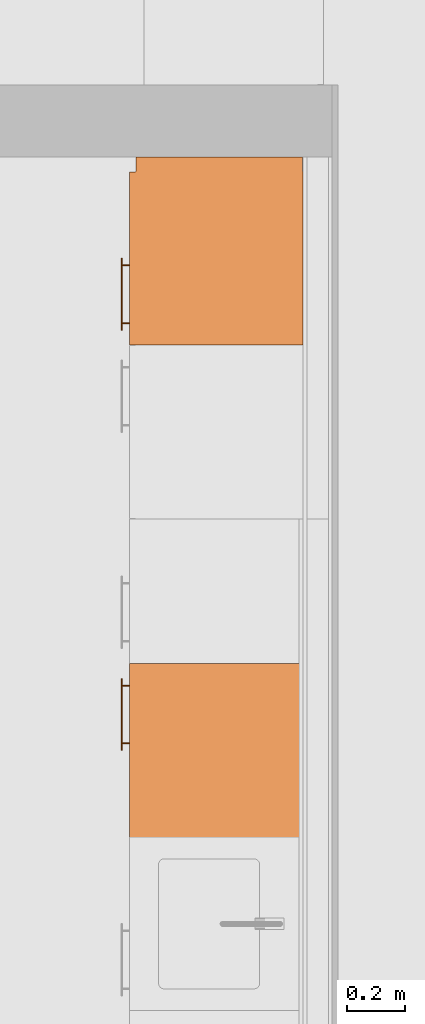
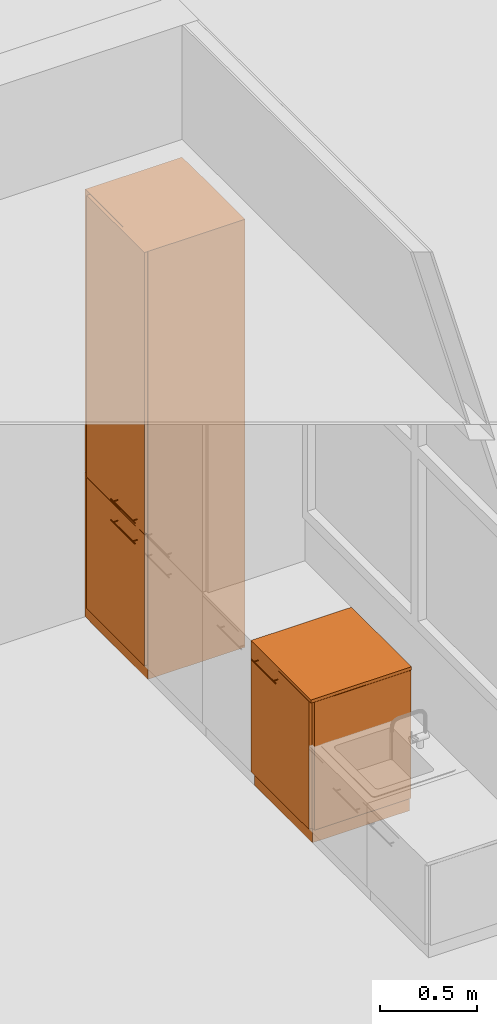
# One storey, part 127 of 167: 2 proxies.
"""IFC2X3 building model written with IfcOpenShell, lengths in millimetres."""

from ifc_helpers import new_model, entity, si_unit, converted_unit, derived_unit, money_unit, direction, frame, origin_with_axes, place, context, subcontext, project, spatial, open_shell, faceted_brep, surface_model, type_object, element, save


model = new_model("IFC2X3")

# Units and contexts
model_context = context("Model", 3, precision=0.01, world=origin_with_axes(), true_north=direction((0.0, 1.0)))
plan_context = context("Plan", 3, precision=0.01, world=origin_with_axes(), true_north=direction((0.0, 1.0)))
body_context = subcontext(model_context, "Body", "Model", "MODEL_VIEW")
ifc_project = project(units=[si_unit("LENGTHUNIT", "METRE", prefix="MILLI"), si_unit("AREAUNIT", "SQUARE_METRE"), si_unit("VOLUMEUNIT", "CUBIC_METRE"), converted_unit("PLANEANGLEUNIT", "DEGREE", entity("IfcPlaneAngleMeasure", 0.0174532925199), si_unit("PLANEANGLEUNIT", "RADIAN"), dimensions=[0, 0, 0, 0, 0, 0, 0]), si_unit("SOLIDANGLEUNIT", "STERADIAN"), money_unit("EUR"), converted_unit("TIMEUNIT", "Year", entity("IfcTimeMeasure", 31556926.0), si_unit("TIMEUNIT", "SECOND"), dimensions=[0, 0, 1, 0, 0, 0, 0]), si_unit("MASSUNIT", "GRAM", prefix="KILO"), si_unit("THERMODYNAMICTEMPERATUREUNIT", "DEGREE_CELSIUS"), si_unit("LUMINOUSINTENSITYUNIT", "LUMEN"), si_unit("ENERGYUNIT", "JOULE", prefix="MEGA"), derived_unit("THERMALCONDUCTANCEUNIT", [(si_unit("POWERUNIT", "WATT"), 1), (si_unit("LENGTHUNIT", "METRE"), -1), (si_unit("THERMODYNAMICTEMPERATUREUNIT", "KELVIN"), -1)]), derived_unit("SPECIFICHEATCAPACITYUNIT", [(si_unit("ENERGYUNIT", "JOULE"), 1), (si_unit("MASSUNIT", "GRAM", prefix="KILO"), -1), (si_unit("THERMODYNAMICTEMPERATUREUNIT", "KELVIN"), -1)]), derived_unit("MASSDENSITYUNIT", [(si_unit("MASSUNIT", "GRAM", prefix="KILO"), 1), (si_unit("VOLUMEUNIT", "CUBIC_METRE"), -1)])], contexts=[model_context, plan_context])

# Site, building, storey
site_placement = place(None, origin_with_axes())
site = spatial("IfcSite", under=ifc_project, at=site_placement, Name="Site", CompositionType="ELEMENT")
building_placement = place(site_placement, origin_with_axes())
building = spatial("IfcBuilding", under=site, at=building_placement, Name="Naam gebouw", CompositionType="ELEMENT")
storey_placement = place(building_placement, origin_with_axes())
storey = spatial("IfcBuildingStorey", under=building, at=storey_placement, Name="Begane grond", CompositionType="ELEMENT", Elevation=0.0)

# Proxies
building_element_proxy_type_1 = type_object("IfcBuildingElementProxyType", Name="Kast basis 1D 24", PredefinedType="NOTDEFINED")
proxy_1_placement = place(storey_placement, frame((7550.0, 33505.0, 0.0), z_axis=(0.0, 0.0, 1.0), x_axis=(0.0, -1.0, 0.0)))
element("IfcBuildingElementProxy", 1, at=proxy_1_placement, inside=storey, type_object=building_element_proxy_type_1, Name="__Object-x", context=body_context, shape_type="SurfaceModel", body=[
    faceted_brep([(-20.0, 20.0, 0.0), (-20.0, 20.0, 90.0), (-620.0, 20.0, 90.0), (-620.0, 20.0, 0.0), (-20.0, 600.0, 0.0), (-20.0, 600.0, 90.0), (-620.0, 600.0, 90.0), (-620.0, 600.0, 0.0)], [[[0, 1, 2, 3]], [[4, 5, 1, 0]], [[1, 5, 6, 2]], [[3, 2, 6, 7]], [[0, 3, 7, 4]], [[7, 6, 5, 4]]]),
    faceted_brep([(-20.0, 20.0, 880.0), (-20.0, 20.0, 900.0), (-40.0, 20.0, 900.0), (-40.0, 20.0, 880.0), (-20.0, 600.0, 880.0), (-20.0, 600.0, 900.0), (-40.0, 600.0, 900.0), (-600.0, 600.0, 900.0), (-620.0, 600.0, 900.0), (-620.0, 20.0, 900.0), (-600.0, 20.0, 900.0), (-600.0, 20.0, 880.0), (-620.0, 20.0, 880.0), (-620.0, 600.0, 880.0), (-600.0, 600.0, 880.0), (-40.0, 600.0, 880.0)], [[[0, 1, 2, 3]], [[4, 5, 1, 0]], [[1, 5, 6, 7, 8, 9, 10, 2]], [[3, 2, 10, 11]], [[0, 3, 11, 12, 13, 14, 15, 4]], [[15, 6, 5, 4]], [[14, 7, 6, 15]], [[13, 8, 7, 14]], [[12, 9, 8, 13]], [[11, 10, 9, 12]]]),
    faceted_brep([(-20.0, 20.0, 90.0), (-20.0, 20.0, 110.0), (-40.0, 20.0, 110.0), (-40.0, 20.0, 90.0), (-20.0, 600.0, 90.0), (-20.0, 600.0, 110.0), (-40.0, 600.0, 110.0), (-600.0, 600.0, 110.0), (-620.0, 600.0, 110.0), (-620.0, 20.0, 110.0), (-600.0, 20.0, 110.0), (-600.0, 20.0, 90.0), (-620.0, 20.0, 90.0), (-620.0, 600.0, 90.0), (-600.0, 600.0, 90.0), (-40.0, 600.0, 90.0)], [[[0, 1, 2, 3]], [[4, 5, 1, 0]], [[1, 5, 6, 7, 8, 9, 10, 2]], [[3, 2, 10, 11]], [[0, 3, 11, 12, 13, 14, 15, 4]], [[15, 6, 5, 4]], [[14, 7, 6, 15]], [[13, 8, 7, 14]], [[12, 9, 8, 13]], [[11, 10, 9, 12]]]),
    faceted_brep([(-20.0, 20.0, 110.0), (-20.0, 20.0, 880.0), (-40.0, 20.0, 880.0), (-40.0, 20.0, 110.0), (-20.0, 600.0, 110.0), (-20.0, 600.0, 880.0), (-620.0, 600.0, 880.0), (-620.0, 20.0, 880.0), (-600.0, 20.0, 880.0), (-600.0, 580.0, 880.0), (-40.0, 580.0, 880.0), (-40.0, 580.0, 110.0), (-600.0, 580.0, 110.0), (-600.0, 20.0, 110.0), (-620.0, 20.0, 110.0), (-620.0, 600.0, 110.0)], [[[0, 1, 2, 3]], [[4, 5, 1, 0]], [[1, 5, 6, 7, 8, 9, 10, 2]], [[3, 2, 10, 11]], [[0, 3, 11, 12, 13, 14, 15, 4]], [[15, 6, 5, 4]], [[14, 7, 6, 15]], [[13, 8, 7, 14]], [[12, 9, 8, 13]], [[11, 10, 9, 12]]]),
    faceted_brep([(-600.0, 20.0, 475.0), (-600.0, 20.0, 495.0), (-600.0, 580.0, 495.0), (-600.0, 580.0, 475.0), (-40.0, 20.0, 475.0), (-40.0, 20.0, 495.0), (-40.0, 580.0, 495.0), (-40.0, 580.0, 475.0)], [[[0, 1, 2, 3]], [[4, 5, 1, 0]], [[1, 5, 6, 2]], [[3, 2, 6, 7]], [[0, 3, 7, 4]], [[7, 6, 5, 4]]]),
    faceted_brep([(0.0, 0.0, 900.0), (0.0, 0.0, 920.0), (-620.0, 0.0, 920.0), (-620.0, 0.0, 900.0), (0.0, 600.0, 900.0), (0.0, 600.0, 920.0), (-620.0, 600.0, 920.0), (-620.0, 600.0, 900.0)], [[[0, 1, 2, 3]], [[4, 5, 1, 0]], [[1, 5, 6, 2]], [[3, 2, 6, 7]], [[0, 3, 7, 4]], [[7, 6, 5, 4]]]),
    faceted_brep([(-21.5, 20.0, 91.5), (-21.5, 0.0, 91.5), (-618.5, 0.0, 91.5), (-618.5, 20.0, 91.5), (-21.5, 20.0, 898.5), (-21.5, 0.0, 898.5), (-618.5, 0.0, 898.5), (-618.5, 20.0, 898.5)], [[[0, 1, 2, 3]], [[4, 5, 1, 0]], [[1, 5, 6, 2]], [[3, 2, 6, 7]], [[0, 3, 7, 4]], [[7, 6, 5, 4]]]),
    faceted_brep([(-318.5, -28.1480502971, 838.728361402), (-318.5, -27.0, 838.5), (-318.5, -25.8519497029, 838.728361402), (-318.5, -24.8786796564, 839.378679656), (-318.5, -24.2283614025, 840.351949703), (-318.5, -24.0, 841.5), (-318.5, -24.2283614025, 842.648050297), (-318.5, -24.8786796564, 843.621320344), (-318.5, -25.8519497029, 844.271638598), (-318.5, -27.0, 844.5), (-318.5, -28.1480502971, 844.271638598), (-318.5, -29.1213203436, 843.621320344), (-318.5, -29.7716385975, 842.648050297), (-318.5, -30.0, 841.5), (-318.5, -29.7716385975, 840.351949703), (-318.5, -29.1213203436, 839.378679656), (-568.5, -28.1480502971, 838.728361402), (-568.5, -27.0, 838.5), (-568.5, -25.8519497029, 838.728361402), (-568.5, -24.8786796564, 839.378679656), (-568.5, -24.2283614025, 840.351949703), (-568.5, -24.0, 841.5), (-568.5, -24.2283614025, 842.648050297), (-568.5, -24.8786796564, 843.621320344), (-568.5, -25.8519497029, 844.271638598), (-568.5, -27.0, 844.5), (-568.5, -28.1480502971, 844.271638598), (-568.5, -29.1213203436, 843.621320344), (-568.5, -29.7716385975, 842.648050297), (-568.5, -30.0, 841.5), (-568.5, -29.7716385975, 840.351949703), (-568.5, -29.1213203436, 839.378679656)], [[[0, 1, 2, 3, 4, 5, 6, 7, 8, 9, 10, 11, 12, 13, 14, 15]], [[0, 16, 17, 1]], [[1, 17, 18, 2]], [[2, 18, 19, 3]], [[3, 19, 20, 4]], [[4, 20, 21, 5]], [[5, 21, 22, 6]], [[6, 22, 23, 7]], [[7, 23, 24, 8]], [[8, 24, 25, 9]], [[9, 25, 26, 10]], [[10, 26, 27, 11]], [[11, 27, 28, 12]], [[12, 28, 29, 13]], [[13, 29, 30, 14]], [[14, 30, 31, 15]], [[15, 31, 16, 0]], [[16, 31, 30, 29, 28, 27, 26, 25, 24, 23, 22, 21, 20, 19, 18, 17]]]),
    surface_model("IfcShellBasedSurfaceModel", [(-341.190301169, -24.156637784, 840.543291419), (-341.190301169, 0.0, 840.543291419), (-341.0, 0.0, 841.5), (-341.0, -24.0, 841.5), (-341.732233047, -24.5761600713, 839.732233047), (-341.732233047, 0.0, 839.732233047), (-342.543291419, 0.0, 839.190301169), (-343.5, 0.0, 839.0), (-344.456708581, 0.0, 839.190301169), (-345.267766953, 0.0, 839.732233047), (-345.809698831, 0.0, 840.543291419), (-346.0, 0.0, 841.5), (-345.809698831, 0.0, 842.456708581), (-345.267766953, 0.0, 843.267766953), (-344.456708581, 0.0, 843.809698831), (-343.5, 0.0, 844.0), (-342.543291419, 0.0, 843.809698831), (-341.732233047, 0.0, 843.267766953), (-341.190301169, 0.0, 842.456708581), (-341.190301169, -24.156637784, 842.456708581), (-342.543291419, -25.0855049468, 839.190301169), (-343.5, -25.3416876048, 839.0), (-344.456708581, -25.0855049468, 839.190301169), (-345.267766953, -24.5761600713, 839.732233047), (-345.809698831, -24.156637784, 840.543291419), (-346.0, -24.0, 841.5), (-345.809698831, -24.156637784, 842.456708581), (-345.267766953, -24.5761600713, 843.267766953), (-344.456708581, -25.0855049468, 843.809698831), (-343.5, -25.3416876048, 844.0), (-342.543291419, -25.0855049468, 843.809698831), (-341.732233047, -24.5761600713, 843.267766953)], [open_shell([[[0, 1, 2, 3]], [[4, 5, 1, 0]], [[1, 5, 6, 7, 8, 9, 10, 11, 12, 13, 14, 15, 16, 17, 18, 2]], [[3, 2, 18, 19]], [[20, 6, 5, 4]], [[21, 7, 6, 20]], [[22, 8, 7, 21]], [[23, 9, 8, 22]], [[24, 10, 9, 23]], [[25, 11, 10, 24]], [[26, 12, 11, 25]], [[27, 13, 12, 26]], [[28, 14, 13, 27]], [[29, 15, 14, 28]], [[30, 16, 15, 29]], [[31, 17, 16, 30]], [[19, 18, 17, 31]]])]),
    surface_model("IfcShellBasedSurfaceModel", [(-541.190301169, -24.156637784, 840.543291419), (-541.190301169, 0.0, 840.543291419), (-541.0, 0.0, 841.5), (-541.0, -24.0, 841.5), (-541.732233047, -24.5761600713, 839.732233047), (-541.732233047, 0.0, 839.732233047), (-542.543291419, 0.0, 839.190301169), (-543.5, 0.0, 839.0), (-544.456708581, 0.0, 839.190301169), (-545.267766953, 0.0, 839.732233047), (-545.809698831, 0.0, 840.543291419), (-546.0, 0.0, 841.5), (-545.809698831, 0.0, 842.456708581), (-545.267766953, 0.0, 843.267766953), (-544.456708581, 0.0, 843.809698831), (-543.5, 0.0, 844.0), (-542.543291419, 0.0, 843.809698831), (-541.732233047, 0.0, 843.267766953), (-541.190301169, 0.0, 842.456708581), (-541.190301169, -24.156637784, 842.456708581), (-542.543291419, -25.0855049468, 839.190301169), (-543.5, -25.3416876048, 839.0), (-544.456708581, -25.0855049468, 839.190301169), (-545.267766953, -24.5761600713, 839.732233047), (-545.809698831, -24.156637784, 840.543291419), (-546.0, -24.0, 841.5), (-545.809698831, -24.156637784, 842.456708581), (-545.267766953, -24.5761600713, 843.267766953), (-544.456708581, -25.0855049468, 843.809698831), (-543.5, -25.3416876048, 844.0), (-542.543291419, -25.0855049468, 843.809698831), (-541.732233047, -24.5761600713, 843.267766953)], [open_shell([[[0, 1, 2, 3]], [[4, 5, 1, 0]], [[1, 5, 6, 7, 8, 9, 10, 11, 12, 13, 14, 15, 16, 17, 18, 2]], [[3, 2, 18, 19]], [[20, 6, 5, 4]], [[21, 7, 6, 20]], [[22, 8, 7, 21]], [[23, 9, 8, 22]], [[24, 10, 9, 23]], [[25, 11, 10, 24]], [[26, 12, 11, 25]], [[27, 13, 12, 26]], [[28, 14, 13, 27]], [[29, 15, 14, 28]], [[30, 16, 15, 29]], [[31, 17, 16, 30]], [[19, 18, 17, 31]]])]),
    faceted_brep([(-20.0, 598.5, 91.5), (0.0, 598.5, 91.5), (0.0, 21.5, 91.5), (-20.0, 21.5, 91.5), (-20.0, 598.5, 898.5), (0.0, 598.5, 898.5), (0.0, 21.5, 898.5), (-20.0, 21.5, 898.5)], [[[0, 1, 2, 3]], [[4, 5, 1, 0]], [[1, 5, 6, 2]], [[3, 2, 6, 7]], [[0, 3, 7, 4]], [[7, 6, 5, 4]]]),
])
building_element_proxy_type_2 = type_object("IfcBuildingElementProxyType", Name="Kast hoog 1D 24", PredefinedType="NOTDEFINED")
proxy_2_placement = place(storey_placement, frame((7550.0, 35875.0, 0.0), z_axis=(0.0, 0.0, 1.0), x_axis=(0.0, -1.0, 0.0)))
element("IfcBuildingElementProxy", 2, at=proxy_2_placement, inside=storey, type_object=building_element_proxy_type_2, Name="__Object-x", context=body_context, shape_type="SurfaceModel", body=[
    faceted_brep([(70.0, 20.0, 910.0), (630.0, 20.0, 910.0), (630.0, 20.0, 930.0), (70.0, 20.0, 930.0), (70.0, 580.0, 910.0), (630.0, 580.0, 910.0), (630.0, 580.0, 930.0), (70.0, 580.0, 930.0)], [[[0, 1, 2, 3]], [[0, 4, 5, 1]], [[1, 5, 6, 2]], [[3, 2, 6, 7]], [[4, 0, 3, 7]], [[5, 4, 7, 6]]]),
    faceted_brep([(50.0, 20.0, 0.0), (650.0, 20.0, 0.0), (650.0, 20.0, 90.0), (50.0, 20.0, 90.0), (50.0, 600.0, 0.0), (650.0, 600.0, 0.0), (650.0, 600.0, 90.0), (50.0, 600.0, 90.0)], [[[0, 1, 2, 3]], [[0, 4, 5, 1]], [[1, 5, 6, 2]], [[3, 2, 6, 7]], [[4, 0, 3, 7]], [[5, 4, 7, 6]]]),
    faceted_brep([(50.0, 20.0, 2680.0), (70.0, 20.0, 2680.0), (70.0, 20.0, 2700.0), (50.0, 20.0, 2700.0), (50.0, 600.0, 2680.0), (70.0, 600.0, 2680.0), (630.0, 600.0, 2680.0), (650.0, 600.0, 2680.0), (650.0, 20.0, 2680.0), (630.0, 20.0, 2680.0), (630.0, 20.0, 2700.0), (650.0, 20.0, 2700.0), (650.0, 600.0, 2700.0), (630.0, 600.0, 2700.0), (70.0, 600.0, 2700.0), (50.0, 600.0, 2700.0)], [[[0, 1, 2, 3]], [[0, 4, 5, 6, 7, 8, 9, 1]], [[1, 9, 10, 2]], [[3, 2, 10, 11, 12, 13, 14, 15]], [[4, 0, 3, 15]], [[5, 4, 15, 14]], [[6, 5, 14, 13]], [[7, 6, 13, 12]], [[8, 7, 12, 11]], [[9, 8, 11, 10]]]),
    faceted_brep([(50.0, 20.0, 90.0), (70.0, 20.0, 90.0), (70.0, 20.0, 110.0), (50.0, 20.0, 110.0), (50.0, 600.0, 90.0), (70.0, 600.0, 90.0), (630.0, 600.0, 90.0), (650.0, 600.0, 90.0), (650.0, 20.0, 90.0), (630.0, 20.0, 90.0), (630.0, 20.0, 110.0), (650.0, 20.0, 110.0), (650.0, 600.0, 110.0), (630.0, 600.0, 110.0), (70.0, 600.0, 110.0), (50.0, 600.0, 110.0)], [[[0, 1, 2, 3]], [[0, 4, 5, 6, 7, 8, 9, 1]], [[1, 9, 10, 2]], [[3, 2, 10, 11, 12, 13, 14, 15]], [[4, 0, 3, 15]], [[5, 4, 15, 14]], [[6, 5, 14, 13]], [[7, 6, 13, 12]], [[8, 7, 12, 11]], [[9, 8, 11, 10]]]),
    faceted_brep([(50.0, 20.0, 110.0), (70.0, 20.0, 110.0), (70.0, 20.0, 2680.0), (50.0, 20.0, 2680.0), (50.0, 600.0, 110.0), (650.0, 600.0, 110.0), (650.0, 20.0, 110.0), (630.0, 20.0, 110.0), (630.0, 580.0, 110.0), (70.0, 580.0, 110.0), (70.0, 580.0, 2680.0), (630.0, 580.0, 2680.0), (630.0, 20.0, 2680.0), (650.0, 20.0, 2680.0), (650.0, 600.0, 2680.0), (50.0, 600.0, 2680.0)], [[[0, 1, 2, 3]], [[0, 4, 5, 6, 7, 8, 9, 1]], [[1, 9, 10, 2]], [[3, 2, 10, 11, 12, 13, 14, 15]], [[4, 0, 3, 15]], [[5, 4, 15, 14]], [[6, 5, 14, 13]], [[7, 6, 13, 12]], [[8, 7, 12, 11]], [[9, 8, 11, 10]]]),
    faceted_brep([(630.0, 20.0, 353.333333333), (630.0, 580.0, 353.333333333), (630.0, 580.0, 373.333333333), (630.0, 20.0, 373.333333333), (70.0, 20.0, 353.333333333), (70.0, 580.0, 353.333333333), (70.0, 580.0, 373.333333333), (70.0, 20.0, 373.333333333)], [[[0, 1, 2, 3]], [[0, 4, 5, 1]], [[1, 5, 6, 2]], [[3, 2, 6, 7]], [[4, 0, 3, 7]], [[5, 4, 7, 6]]]),
    faceted_brep([(630.0, 20.0, 636.666666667), (630.0, 580.0, 636.666666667), (630.0, 580.0, 656.666666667), (630.0, 20.0, 656.666666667), (70.0, 20.0, 636.666666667), (70.0, 580.0, 636.666666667), (70.0, 580.0, 656.666666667), (70.0, 20.0, 656.666666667)], [[[0, 1, 2, 3]], [[0, 4, 5, 1]], [[1, 5, 6, 2]], [[3, 2, 6, 7]], [[4, 0, 3, 7]], [[5, 4, 7, 6]]]),
    faceted_brep([(51.5, 20.0, 91.5), (648.5, 20.0, 91.5), (648.5, 0.0, 91.5), (51.5, 0.0, 91.5), (51.5, 20.0, 918.5), (648.5, 20.0, 918.5), (648.5, 0.0, 918.5), (51.5, 0.0, 918.5)], [[[0, 1, 2, 3]], [[0, 4, 5, 1]], [[1, 5, 6, 2]], [[3, 2, 6, 7]], [[4, 0, 3, 7]], [[5, 4, 7, 6]]]),
    faceted_brep([(348.5, -28.1480502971, 838.728361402), (348.5, -29.1213203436, 839.378679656), (348.5, -29.7716385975, 840.351949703), (348.5, -30.0, 841.5), (348.5, -29.7716385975, 842.648050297), (348.5, -29.1213203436, 843.621320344), (348.5, -28.1480502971, 844.271638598), (348.5, -27.0, 844.5), (348.5, -25.8519497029, 844.271638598), (348.5, -24.8786796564, 843.621320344), (348.5, -24.2283614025, 842.648050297), (348.5, -24.0, 841.5), (348.5, -24.2283614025, 840.351949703), (348.5, -24.8786796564, 839.378679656), (348.5, -25.8519497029, 838.728361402), (348.5, -27.0, 838.5), (598.5, -28.1480502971, 838.728361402), (598.5, -29.1213203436, 839.378679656), (598.5, -29.7716385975, 840.351949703), (598.5, -30.0, 841.5), (598.5, -29.7716385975, 842.648050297), (598.5, -29.1213203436, 843.621320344), (598.5, -28.1480502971, 844.271638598), (598.5, -27.0, 844.5), (598.5, -25.8519497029, 844.271638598), (598.5, -24.8786796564, 843.621320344), (598.5, -24.2283614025, 842.648050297), (598.5, -24.0, 841.5), (598.5, -24.2283614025, 840.351949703), (598.5, -24.8786796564, 839.378679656), (598.5, -25.8519497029, 838.728361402), (598.5, -27.0, 838.5)], [[[0, 1, 2, 3, 4, 5, 6, 7, 8, 9, 10, 11, 12, 13, 14, 15]], [[1, 0, 16, 17]], [[2, 1, 17, 18]], [[3, 2, 18, 19]], [[4, 3, 19, 20]], [[5, 4, 20, 21]], [[6, 5, 21, 22]], [[7, 6, 22, 23]], [[8, 7, 23, 24]], [[9, 8, 24, 25]], [[10, 9, 25, 26]], [[11, 10, 26, 27]], [[12, 11, 27, 28]], [[13, 12, 28, 29]], [[14, 13, 29, 30]], [[15, 14, 30, 31]], [[0, 15, 31, 16]], [[16, 31, 30, 29, 28, 27, 26, 25, 24, 23, 22, 21, 20, 19, 18, 17]]]),
    surface_model("IfcShellBasedSurfaceModel", [(371.190301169, -24.156637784, 840.543291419), (371.0, -24.0, 841.5), (371.0, 0.0, 841.5), (371.190301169, 0.0, 840.543291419), (371.190301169, -24.156637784, 842.456708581), (371.190301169, 0.0, 842.456708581), (371.732233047, 0.0, 843.267766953), (372.543291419, 0.0, 843.809698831), (373.5, 0.0, 844.0), (374.456708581, 0.0, 843.809698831), (375.267766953, 0.0, 843.267766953), (375.809698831, 0.0, 842.456708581), (376.0, 0.0, 841.5), (375.809698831, 0.0, 840.543291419), (375.267766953, 0.0, 839.732233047), (374.456708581, 0.0, 839.190301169), (373.5, 0.0, 839.0), (372.543291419, 0.0, 839.190301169), (371.732233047, 0.0, 839.732233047), (371.732233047, -24.5761600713, 839.732233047), (371.732233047, -24.5761600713, 843.267766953), (372.543291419, -25.0855049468, 843.809698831), (373.5, -25.3416876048, 844.0), (374.456708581, -25.0855049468, 843.809698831), (375.267766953, -24.5761600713, 843.267766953), (375.809698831, -24.156637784, 842.456708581), (376.0, -24.0, 841.5), (375.809698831, -24.156637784, 840.543291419), (375.267766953, -24.5761600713, 839.732233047), (374.456708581, -25.0855049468, 839.190301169), (373.5, -25.3416876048, 839.0), (372.543291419, -25.0855049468, 839.190301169)], [open_shell([[[0, 1, 2, 3]], [[1, 4, 5, 2]], [[3, 2, 5, 6, 7, 8, 9, 10, 11, 12, 13, 14, 15, 16, 17, 18]], [[19, 0, 3, 18]], [[4, 20, 6, 5]], [[20, 21, 7, 6]], [[21, 22, 8, 7]], [[22, 23, 9, 8]], [[23, 24, 10, 9]], [[24, 25, 11, 10]], [[25, 26, 12, 11]], [[26, 27, 13, 12]], [[27, 28, 14, 13]], [[28, 29, 15, 14]], [[29, 30, 16, 15]], [[30, 31, 17, 16]], [[31, 19, 18, 17]]])]),
    surface_model("IfcShellBasedSurfaceModel", [(571.190301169, -24.156637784, 840.543291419), (571.0, -24.0, 841.5), (571.0, 0.0, 841.5), (571.190301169, 0.0, 840.543291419), (571.190301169, -24.156637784, 842.456708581), (571.190301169, 0.0, 842.456708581), (571.732233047, 0.0, 843.267766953), (572.543291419, 0.0, 843.809698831), (573.5, 0.0, 844.0), (574.456708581, 0.0, 843.809698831), (575.267766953, 0.0, 843.267766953), (575.809698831, 0.0, 842.456708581), (576.0, 0.0, 841.5), (575.809698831, 0.0, 840.543291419), (575.267766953, 0.0, 839.732233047), (574.456708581, 0.0, 839.190301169), (573.5, 0.0, 839.0), (572.543291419, 0.0, 839.190301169), (571.732233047, 0.0, 839.732233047), (571.732233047, -24.5761600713, 839.732233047), (571.732233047, -24.5761600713, 843.267766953), (572.543291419, -25.0855049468, 843.809698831), (573.5, -25.3416876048, 844.0), (574.456708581, -25.0855049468, 843.809698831), (575.267766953, -24.5761600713, 843.267766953), (575.809698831, -24.156637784, 842.456708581), (576.0, -24.0, 841.5), (575.809698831, -24.156637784, 840.543291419), (575.267766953, -24.5761600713, 839.732233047), (574.456708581, -25.0855049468, 839.190301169), (573.5, -25.3416876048, 839.0), (572.543291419, -25.0855049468, 839.190301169)], [open_shell([[[0, 1, 2, 3]], [[1, 4, 5, 2]], [[3, 2, 5, 6, 7, 8, 9, 10, 11, 12, 13, 14, 15, 16, 17, 18]], [[19, 0, 3, 18]], [[4, 20, 6, 5]], [[20, 21, 7, 6]], [[21, 22, 8, 7]], [[22, 23, 9, 8]], [[23, 24, 10, 9]], [[24, 25, 11, 10]], [[25, 26, 12, 11]], [[26, 27, 13, 12]], [[27, 28, 14, 13]], [[28, 29, 15, 14]], [[29, 30, 16, 15]], [[30, 31, 17, 16]], [[31, 19, 18, 17]]])]),
    faceted_brep([(51.5, 20.0, 921.5), (648.5, 20.0, 921.5), (648.5, 0.0, 921.5), (51.5, 0.0, 921.5), (51.5, 20.0, 2698.5), (648.5, 20.0, 2698.5), (648.5, 0.0, 2698.5), (51.5, 0.0, 2698.5)], [[[0, 1, 2, 3]], [[0, 4, 5, 1]], [[1, 5, 6, 2]], [[3, 2, 6, 7]], [[4, 0, 3, 7]], [[5, 4, 7, 6]]]),
    faceted_brep([(348.5, -28.1480502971, 968.728361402), (348.5, -29.1213203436, 969.378679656), (348.5, -29.7716385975, 970.351949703), (348.5, -30.0, 971.5), (348.5, -29.7716385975, 972.648050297), (348.5, -29.1213203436, 973.621320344), (348.5, -28.1480502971, 974.271638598), (348.5, -27.0, 974.5), (348.5, -25.8519497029, 974.271638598), (348.5, -24.8786796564, 973.621320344), (348.5, -24.2283614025, 972.648050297), (348.5, -24.0, 971.5), (348.5, -24.2283614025, 970.351949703), (348.5, -24.8786796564, 969.378679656), (348.5, -25.8519497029, 968.728361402), (348.5, -27.0, 968.5), (598.5, -28.1480502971, 968.728361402), (598.5, -29.1213203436, 969.378679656), (598.5, -29.7716385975, 970.351949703), (598.5, -30.0, 971.5), (598.5, -29.7716385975, 972.648050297), (598.5, -29.1213203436, 973.621320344), (598.5, -28.1480502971, 974.271638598), (598.5, -27.0, 974.5), (598.5, -25.8519497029, 974.271638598), (598.5, -24.8786796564, 973.621320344), (598.5, -24.2283614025, 972.648050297), (598.5, -24.0, 971.5), (598.5, -24.2283614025, 970.351949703), (598.5, -24.8786796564, 969.378679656), (598.5, -25.8519497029, 968.728361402), (598.5, -27.0, 968.5)], [[[0, 1, 2, 3, 4, 5, 6, 7, 8, 9, 10, 11, 12, 13, 14, 15]], [[1, 0, 16, 17]], [[2, 1, 17, 18]], [[3, 2, 18, 19]], [[4, 3, 19, 20]], [[5, 4, 20, 21]], [[6, 5, 21, 22]], [[7, 6, 22, 23]], [[8, 7, 23, 24]], [[9, 8, 24, 25]], [[10, 9, 25, 26]], [[11, 10, 26, 27]], [[12, 11, 27, 28]], [[13, 12, 28, 29]], [[14, 13, 29, 30]], [[15, 14, 30, 31]], [[0, 15, 31, 16]], [[16, 31, 30, 29, 28, 27, 26, 25, 24, 23, 22, 21, 20, 19, 18, 17]]]),
    surface_model("IfcShellBasedSurfaceModel", [(371.190301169, -24.156637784, 970.543291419), (371.0, -24.0, 971.5), (371.0, 0.0, 971.5), (371.190301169, 0.0, 970.543291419), (371.190301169, -24.156637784, 972.456708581), (371.190301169, 0.0, 972.456708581), (371.732233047, 0.0, 973.267766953), (372.543291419, 0.0, 973.809698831), (373.5, 0.0, 974.0), (374.456708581, 0.0, 973.809698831), (375.267766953, 0.0, 973.267766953), (375.809698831, 0.0, 972.456708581), (376.0, 0.0, 971.5), (375.809698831, 0.0, 970.543291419), (375.267766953, 0.0, 969.732233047), (374.456708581, 0.0, 969.190301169), (373.5, 0.0, 969.0), (372.543291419, 0.0, 969.190301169), (371.732233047, 0.0, 969.732233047), (371.732233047, -24.5761600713, 969.732233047), (371.732233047, -24.5761600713, 973.267766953), (372.543291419, -25.0855049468, 973.809698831), (373.5, -25.3416876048, 974.0), (374.456708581, -25.0855049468, 973.809698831), (375.267766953, -24.5761600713, 973.267766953), (375.809698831, -24.156637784, 972.456708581), (376.0, -24.0, 971.5), (375.809698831, -24.156637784, 970.543291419), (375.267766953, -24.5761600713, 969.732233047), (374.456708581, -25.0855049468, 969.190301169), (373.5, -25.3416876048, 969.0), (372.543291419, -25.0855049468, 969.190301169)], [open_shell([[[0, 1, 2, 3]], [[1, 4, 5, 2]], [[3, 2, 5, 6, 7, 8, 9, 10, 11, 12, 13, 14, 15, 16, 17, 18]], [[19, 0, 3, 18]], [[4, 20, 6, 5]], [[20, 21, 7, 6]], [[21, 22, 8, 7]], [[22, 23, 9, 8]], [[23, 24, 10, 9]], [[24, 25, 11, 10]], [[25, 26, 12, 11]], [[26, 27, 13, 12]], [[27, 28, 14, 13]], [[28, 29, 15, 14]], [[29, 30, 16, 15]], [[30, 31, 17, 16]], [[31, 19, 18, 17]]])]),
    surface_model("IfcShellBasedSurfaceModel", [(571.190301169, -24.156637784, 970.543291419), (571.0, -24.0, 971.5), (571.0, 0.0, 971.5), (571.190301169, 0.0, 970.543291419), (571.190301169, -24.156637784, 972.456708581), (571.190301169, 0.0, 972.456708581), (571.732233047, 0.0, 973.267766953), (572.543291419, 0.0, 973.809698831), (573.5, 0.0, 974.0), (574.456708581, 0.0, 973.809698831), (575.267766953, 0.0, 973.267766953), (575.809698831, 0.0, 972.456708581), (576.0, 0.0, 971.5), (575.809698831, 0.0, 970.543291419), (575.267766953, 0.0, 969.732233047), (574.456708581, 0.0, 969.190301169), (573.5, 0.0, 969.0), (572.543291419, 0.0, 969.190301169), (571.732233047, 0.0, 969.732233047), (571.732233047, -24.5761600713, 969.732233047), (571.732233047, -24.5761600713, 973.267766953), (572.543291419, -25.0855049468, 973.809698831), (573.5, -25.3416876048, 974.0), (574.456708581, -25.0855049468, 973.809698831), (575.267766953, -24.5761600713, 973.267766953), (575.809698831, -24.156637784, 972.456708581), (576.0, -24.0, 971.5), (575.809698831, -24.156637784, 970.543291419), (575.267766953, -24.5761600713, 969.732233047), (574.456708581, -25.0855049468, 969.190301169), (573.5, -25.3416876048, 969.0), (572.543291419, -25.0855049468, 969.190301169)], [open_shell([[[0, 1, 2, 3]], [[1, 4, 5, 2]], [[3, 2, 5, 6, 7, 8, 9, 10, 11, 12, 13, 14, 15, 16, 17, 18]], [[19, 0, 3, 18]], [[4, 20, 6, 5]], [[20, 21, 7, 6]], [[21, 22, 8, 7]], [[22, 23, 9, 8]], [[23, 24, 10, 9]], [[24, 25, 11, 10]], [[25, 26, 12, 11]], [[26, 27, 13, 12]], [[27, 28, 14, 13]], [[28, 29, 15, 14]], [[29, 30, 16, 15]], [[30, 31, 17, 16]], [[31, 19, 18, 17]]])]),
    faceted_brep([(50.0, 598.5, 1.5), (50.0, 21.5, 1.5), (0.0, 21.5, 1.5), (0.0, 598.5, 1.5), (50.0, 598.5, 918.5), (50.0, 21.5, 918.5), (0.0, 21.5, 918.5), (0.0, 598.5, 918.5)], [[[0, 1, 2, 3]], [[0, 4, 5, 1]], [[1, 5, 6, 2]], [[3, 2, 6, 7]], [[4, 0, 3, 7]], [[5, 4, 7, 6]]]),
    faceted_brep([(50.0, 598.5, 921.5), (50.0, 21.5, 921.5), (0.0, 21.5, 921.5), (0.0, 598.5, 921.5), (50.0, 598.5, 2698.5), (50.0, 21.5, 2698.5), (0.0, 21.5, 2698.5), (0.0, 598.5, 2698.5)], [[[0, 1, 2, 3]], [[0, 4, 5, 1]], [[1, 5, 6, 2]], [[3, 2, 6, 7]], [[4, 0, 3, 7]], [[5, 4, 7, 6]]]),
])

save(model, "model.ifc")
